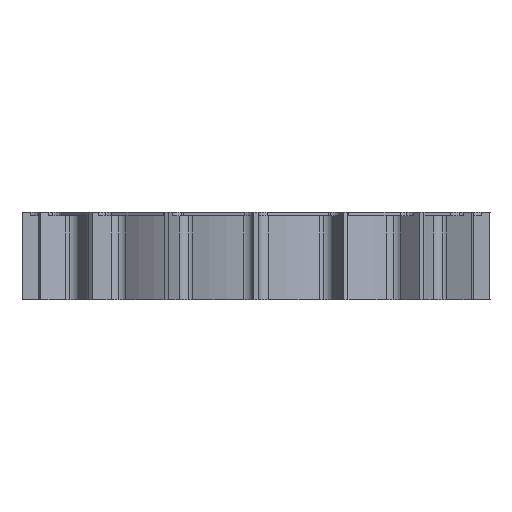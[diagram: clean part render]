
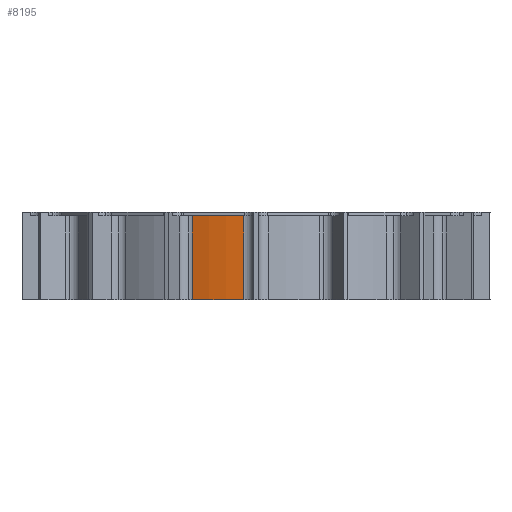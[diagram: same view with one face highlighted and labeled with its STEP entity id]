
A CAD part, left-side view. The second image highlights one B-rep face of the part: STEP entity #8195.
In plain terms, the highlighted cylindrical face has radius 56.5 mm (diameter 113 mm), a partial arc.
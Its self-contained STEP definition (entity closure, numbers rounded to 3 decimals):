
#339 = DIRECTION ( 'NONE',  ( 0., 0., 1. ) ) ;
#652 = LINE ( 'NONE', #3993, #3040 ) ;
#701 = DIRECTION ( 'NONE',  ( 0., 0., 1. ) ) ;
#792 = CIRCLE ( 'NONE', #9269, 56.5 ) ;
#1081 = CARTESIAN_POINT ( 'NONE',  ( -56.388, 3.561, 0. ) ) ;
#1154 = DIRECTION ( 'NONE',  ( 0., 0., -1. ) ) ;
#1627 = EDGE_LOOP ( 'NONE', ( #7816, #5089, #7387, #9184 ) ) ;
#1892 = VERTEX_POINT ( 'NONE', #1081 ) ;
#2355 = EDGE_CURVE ( 'NONE', #9173, #9058, #792, .T. ) ;
#2658 = CARTESIAN_POINT ( 'NONE',  ( -56.388, 3.561, 24. ) ) ;
#2747 = VERTEX_POINT ( 'NONE', #5100 ) ;
#2965 = CARTESIAN_POINT ( 'NONE',  ( -53.458, 18.289, -13.992 ) ) ;
#2987 = DIRECTION ( 'NONE',  ( 1., 0., 0. ) ) ;
#3040 = VECTOR ( 'NONE', #701, 1000. ) ;
#3155 = AXIS2_PLACEMENT_3D ( 'NONE', #3693, #1154, #3745 ) ;
#3693 = CARTESIAN_POINT ( 'NONE',  ( 0., 0., 25. ) ) ;
#3745 = DIRECTION ( 'NONE',  ( -1., 0., 0. ) ) ;
#3844 = EDGE_CURVE ( 'NONE', #2747, #9173, #7296, .T. ) ;
#3993 = CARTESIAN_POINT ( 'NONE',  ( -56.388, 3.561, -12.781 ) ) ;
#4356 = CARTESIAN_POINT ( 'NONE',  ( 0., 0., 24. ) ) ;
#5089 = ORIENTED_EDGE ( 'NONE', *, *, #3844, .F. ) ;
#5100 = CARTESIAN_POINT ( 'NONE',  ( -53.458, 18.289, 0. ) ) ;
#5455 = DIRECTION ( 'NONE',  ( 0., 0., 1. ) ) ;
#5490 = CARTESIAN_POINT ( 'NONE',  ( -53.458, 18.289, 24. ) ) ;
#5596 = CIRCLE ( 'NONE', #10683, 56.5 ) ;
#7296 = LINE ( 'NONE', #2965, #7306 ) ;
#7306 = VECTOR ( 'NONE', #8775, 1000. ) ;
#7387 = ORIENTED_EDGE ( 'NONE', *, *, #8458, .T. ) ;
#7816 = ORIENTED_EDGE ( 'NONE', *, *, #2355, .F. ) ;
#7931 = CARTESIAN_POINT ( 'NONE',  ( 0., 0., 0. ) ) ;
#7953 = FACE_OUTER_BOUND ( 'NONE', #1627, .T. ) ;
#8096 = DIRECTION ( 'NONE',  ( 0.383, 0.924, 0. ) ) ;
#8195 = ADVANCED_FACE ( 'NONE', ( #7953 ), #8721, .T. ) ;
#8458 = EDGE_CURVE ( 'NONE', #2747, #1892, #5596, .T. ) ;
#8721 = CYLINDRICAL_SURFACE ( 'NONE', #3155, 56.5 ) ;
#8775 = DIRECTION ( 'NONE',  ( 0., 0., 1. ) ) ;
#9058 = VERTEX_POINT ( 'NONE', #2658 ) ;
#9173 = VERTEX_POINT ( 'NONE', #5490 ) ;
#9184 = ORIENTED_EDGE ( 'NONE', *, *, #10735, .T. ) ;
#9269 = AXIS2_PLACEMENT_3D ( 'NONE', #4356, #5455, #8096 ) ;
#10683 = AXIS2_PLACEMENT_3D ( 'NONE', #7931, #339, #2987 ) ;
#10735 = EDGE_CURVE ( 'NONE', #1892, #9058, #652, .T. ) ;
